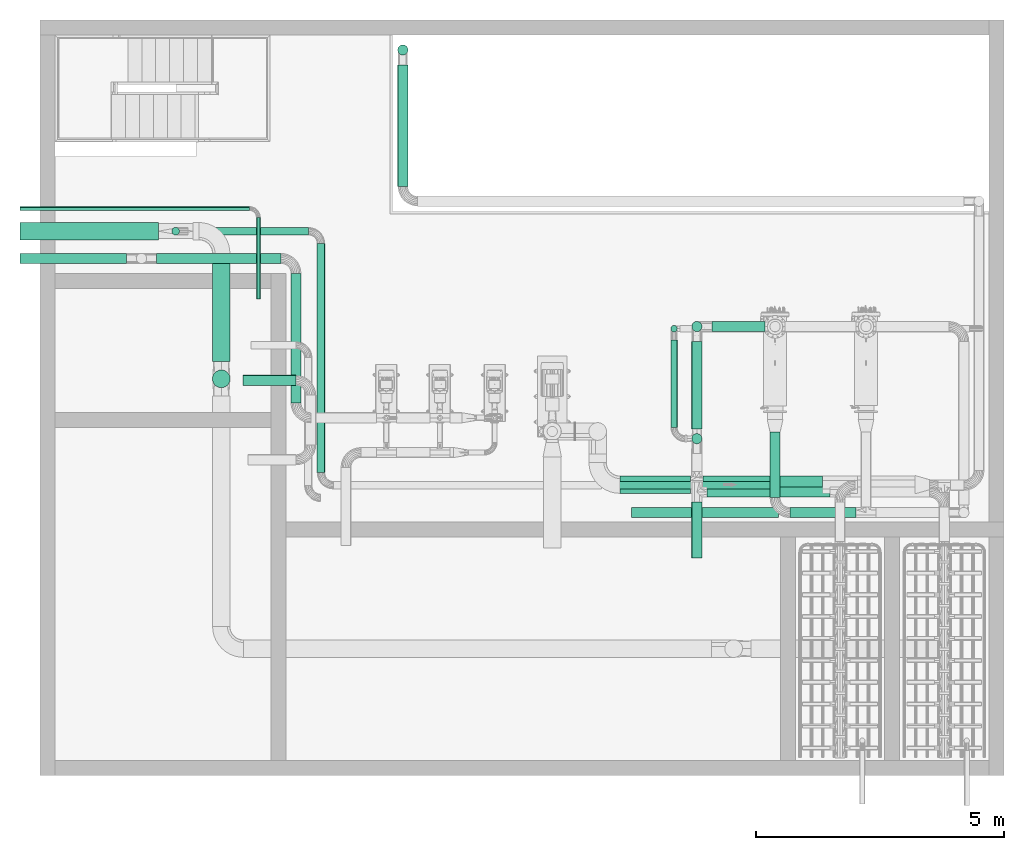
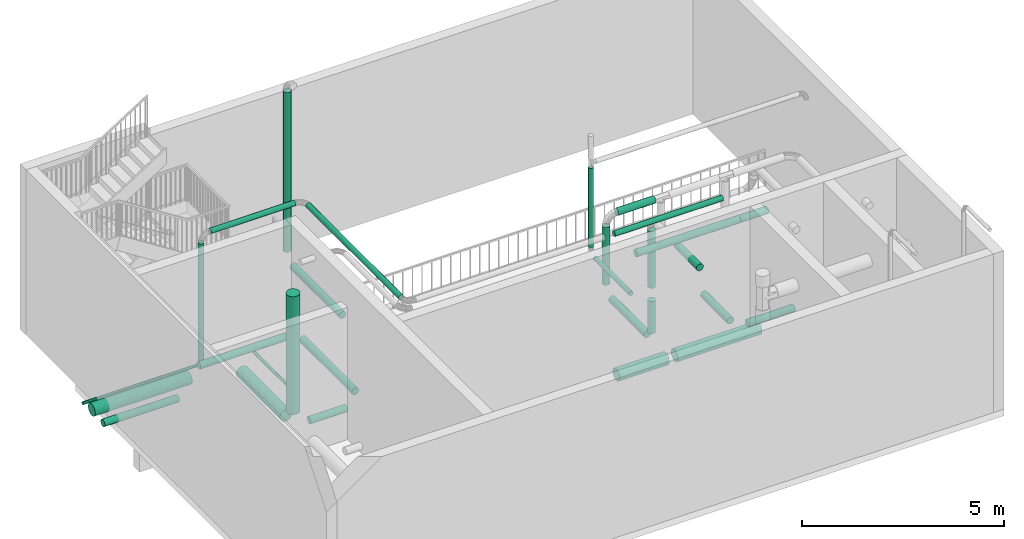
# One storey, part 6 of 28: 29 flow segments.
"""IFC2X3 building model written with IfcOpenShell, lengths in millimetres."""

from ifc_helpers import new_model, entity, si_unit, converted_unit, direction, frame, frame_2d, origin, origin_2d_with_axis, place, context, subcontext, project, spatial, circle, extrude, material, type_object, element, save


model = new_model("IFC2X3")

# Units and contexts
model_context = context("Model", 3, precision=0.01, world=origin(), true_north=direction((6.123031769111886e-17, 1.0)))
body_context = subcontext(model_context, "Body", "Model", "MODEL_VIEW")
ifc_project = project(units=[si_unit("LENGTHUNIT", "METRE", prefix="MILLI"), converted_unit("PLANEANGLEUNIT", "DEGREE", entity("IfcPlaneAngleMeasure", 0.017453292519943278), si_unit("PLANEANGLEUNIT", "RADIAN"), dimensions=[0, 0, 0, 0, 0, 0, 0]), si_unit("AREAUNIT", "SQUARE_METRE")], contexts=[model_context])

# Site, building, storey
site_placement = place(None, frame((7776.576483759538, 118.3519876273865, 0.0)))
site = spatial("IfcSite", under=ifc_project, at=site_placement, Name="Default", CompositionType="ELEMENT")
building_placement = place(site_placement, origin())
building = spatial("IfcBuilding", under=site, at=building_placement, Name="Bygning (endres i Project Information)", CompositionType="ELEMENT")
storey_placement = place(building_placement, frame((0.0, 0.0, 14000.0)))
storey = spatial("IfcBuildingStorey", under=building, at=storey_placement, Name="Plan U1 - Arbeid", CompositionType="ELEMENT", Elevation=14000.000000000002)

# Flow segments
ifc_material = material(Name="SS 2343 Rustfritt stål, prosessrør, generisk")
pipe_segment_type = type_object("IfcPipeSegmentType", Name="Pipe Types:AISI 304L Rustfritt", PredefinedType="NOTDEFINED", material=ifc_material)
flow_segment_1_placement = place(storey_placement, origin())
element("IfcFlowSegment", 1, at=flow_segment_1_placement, inside=storey, type_object=pipe_segment_type, Name="Pipe Types:AISI 304L Rustfritt", ObjectType="Pipe Types:AISI 304L Rustfritt", context=body_context, shape_type="SweptSolid", body=[
    extrude(circle(Radius=78.0, at=origin_2d_with_axis()), frame((24474.00137486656, 25237.75730578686, 4500.0), z_axis=(1.0, 0.0, 0.0), x_axis=(0.0, 1.0, 0.0)), (0.0, 0.0, 1.0), 3099.999999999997),
])
flow_segment_2_placement = place(storey_placement, origin())
element("IfcFlowSegment", 2, at=flow_segment_2_placement, inside=storey, type_object=pipe_segment_type, Name="Pipe Types:AISI 304L Rustfritt", ObjectType="Pipe Types:AISI 304L Rustfritt", context=body_context, shape_type="SweptSolid", body=[
    extrude(circle(Radius=103.0, at=frame_2d((1.7325874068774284e-11, 0.0), x_axis=(1.0, 0.0))), frame((27667.696048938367, 24985.757305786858, 903.4999999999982), z_axis=(0.0, 1.0, 0.0), x_axis=(-1.0, 0.0, 0.0)), (0.0, 0.0, 1.0), 1322.000000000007),
])
flow_segment_3_placement = place(storey_placement, origin())
element("IfcFlowSegment", 3, at=flow_segment_3_placement, inside=storey, type_object=pipe_segment_type, Name="Pipe Types:AISI 304L Rustfritt", ObjectType="Pipe Types:AISI 304L Rustfritt", context=body_context, shape_type="SweptSolid", body=[
    extrude(circle(Radius=103.0, at=frame_2d((-4.331468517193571e-12, 4.3314685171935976e-12), x_axis=(1.0, 0.0))), frame((26093.82624997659, 23770.57559754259, 3803.0), z_axis=(0.0, 1.0, 0.0), x_axis=(-1.0, 0.0, 0.0)), (0.0, 0.0, 1.0), 1127.1817082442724),
])
flow_segment_4_placement = place(storey_placement, origin())
element("IfcFlowSegment", 4, at=flow_segment_4_placement, inside=storey, type_object=pipe_segment_type, Name="Pipe Types:AISI 304L Rustfritt", ObjectType="Pipe Types:AISI 304L Rustfritt", context=body_context, shape_type="SweptSolid", body=[
    extrude(circle(Radius=103.0, at=frame_2d((-4.331468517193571e-12, 4.331468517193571e-12), x_axis=(1.0, 0.0))), frame((26093.82624997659, 26172.75730578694, 1780.0), z_axis=(0.0, 0.0, 1.0), x_axis=(-1.0, 0.0, 0.0)), (0.0, 0.0, 1.0), 1722.9999999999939),
])
flow_segment_5_placement = place(storey_placement, origin())
element("IfcFlowSegment", 5, at=flow_segment_5_placement, inside=storey, type_object=pipe_segment_type, Name="Pipe Types:AISI 304L Rustfritt", ObjectType="Pipe Types:AISI 304L Rustfritt", context=body_context, shape_type="SweptSolid", body=[
    extrude(circle(Radius=178.0, at=frame_2d((-8.662937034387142e-12, 7.741093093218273e-34), x_axis=(1.0, 0.0))), frame((12474.001345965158, 30347.757305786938, 278.0000272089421), z_axis=(1.0, 0.0, 0.0), x_axis=(0.0, 1.0, 0.0)), (0.0, 0.0, 1.0), 2782.1441648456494),
])
flow_segment_6_placement = place(storey_placement, origin())
element("IfcFlowSegment", 6, at=flow_segment_6_placement, inside=storey, type_object=pipe_segment_type, Name="Pipe Types:AISI 304L Rustfritt", ObjectType="Pipe Types:AISI 304L Rustfritt", context=body_context, shape_type="SweptSolid", body=[
    extrude(circle(Radius=103.0, at=origin_2d_with_axis()), frame((26393.826249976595, 28429.85394005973, 2552.2960799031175), z_axis=(1.0, 0.0, 0.0), x_axis=(0.0, 1.0, 0.0)), (0.0, 0.0, 1.0), 1073.869798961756),
])
flow_segment_7_placement = place(storey_placement, origin())
element("IfcFlowSegment", 7, at=flow_segment_7_placement, inside=storey, type_object=pipe_segment_type, Name="Pipe Types:AISI 304L Rustfritt", ObjectType="Pipe Types:AISI 304L Rustfritt", context=body_context, shape_type="SweptSolid", body=[
    extrude(circle(Radius=103.0, at=origin_2d_with_axis()), frame((27967.69604893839, 24685.75730578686, 903.5000000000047), z_axis=(1.0, 0.0, 0.0), x_axis=(0.0, 1.0, 0.0)), (0.0, 0.0, 1.0), 1329.5679156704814),
])
flow_segment_8_placement = place(storey_placement, origin())
element("IfcFlowSegment", 8, at=flow_segment_8_placement, inside=storey, type_object=pipe_segment_type, Name="Pipe Types:AISI 304L Rustfritt", ObjectType="Pipe Types:AISI 304L Rustfritt", context=body_context, shape_type="SweptSolid", body=[
    extrude(circle(Radius=178.0, at=origin_2d_with_axis()), frame((16524.001374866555, 27376.90344361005, 628.0), z_axis=(0.0, 0.0, 1.0), x_axis=(-1.0, 0.0, 0.0)), (0.0, 0.0, 1.0), 3571.999868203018),
])
flow_segment_9_placement = place(storey_placement, origin())
element("IfcFlowSegment", 9, at=flow_segment_9_placement, inside=storey, type_object=pipe_segment_type, Name="Pipe Types:AISI 304L Rustfritt", ObjectType="Pipe Types:AISI 304L Rustfritt", context=body_context, shape_type="SweptSolid", body=[
    extrude(circle(Radius=103.0, at=frame_2d((0.0, 2.1657342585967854e-12), x_axis=(1.0, 0.0))), frame((26093.826249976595, 26372.757305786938, 203.0), z_axis=(0.0, 1.0, 0.0), x_axis=(1.0, 0.0, 0.0)), (0.0, 0.0, 1.0), 1757.096634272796),
])
flow_segment_10_placement = place(storey_placement, origin())
element("IfcFlowSegment", 10, at=flow_segment_10_placement, inside=storey, type_object=pipe_segment_type, Name="Pipe Types:AISI 304L Rustfritt", ObjectType="Pipe Types:AISI 304L Rustfritt", context=body_context, shape_type="SweptSolid", body=[
    extrude(circle(Radius=78.0, at=origin_2d_with_axis()), frame((18530.00137486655, 25487.75730578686, 4500.0), z_axis=(0.0, 1.0, 0.0), x_axis=(1.0, 0.0, 0.0)), (0.0, 0.0, 1.0), 4610.000000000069),
])
flow_segment_11_placement = place(storey_placement, origin())
element("IfcFlowSegment", 11, at=flow_segment_11_placement, inside=storey, type_object=pipe_segment_type, Name="Pipe Types:AISI 304L Rustfritt", ObjectType="Pipe Types:AISI 304L Rustfritt", context=body_context, shape_type="SweptSolid", body=[
    extrude(circle(Radius=78.0, at=origin_2d_with_axis()), frame((15856.145518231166, 30347.75730578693, 4500.0), z_axis=(1.0, 0.0, 0.0), x_axis=(0.0, 1.0, 0.0)), (0.0, 0.0, 1.0), 2423.8558566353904),
])
flow_segment_12_placement = place(storey_placement, origin())
element("IfcFlowSegment", 12, at=flow_segment_12_placement, inside=storey, type_object=pipe_segment_type, Name="Pipe Types:AISI 304L Rustfritt", ObjectType="Pipe Types:AISI 304L Rustfritt", context=body_context, shape_type="SweptSolid", body=[
    extrude(circle(Radius=42.0, at=origin_2d_with_axis()), frame((12474.001344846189, 30805.757305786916, 192.00004345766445), z_axis=(1.0, 0.0, 0.0), x_axis=(0.0, -1.0, 0.0)), (0.0, 0.0, 1.0), 4616.292111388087),
])
flow_segment_13_placement = place(storey_placement, origin())
element("IfcFlowSegment", 13, at=flow_segment_13_placement, inside=storey, type_object=pipe_segment_type, Name="Pipe Types:AISI 304L Rustfritt", ObjectType="Pipe Types:AISI 304L Rustfritt", context=body_context, shape_type="SweptSolid", body=[
    extrude(circle(Radius=42.0, at=frame_2d((-2.1657342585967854e-12, 0.0), x_axis=(1.0, 0.0))), frame((17270.293456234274, 28988.30250068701, 192.0), z_axis=(0.0, 1.0, 0.0), x_axis=(-1.0, 0.0, 0.0)), (0.0, 0.0, 1.0), 1637.454805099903),
])
flow_segment_14_placement = place(storey_placement, origin())
element("IfcFlowSegment", 14, at=flow_segment_14_placement, inside=storey, type_object=pipe_segment_type, Name="Pipe Types:AISI 304L Rustfritt", ObjectType="Pipe Types:AISI 304L Rustfritt", context=body_context, shape_type="SweptSolid", body=[
    extrude(circle(Radius=103.0, at=frame_2d((6.44152346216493e-25, -8.118991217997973e-07), x_axis=(1.0, 0.0))), frame((15219.001374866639, 29800.75727784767, 985.0123791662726), z_axis=(1.0, -9.190543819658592e-08, 0.0), x_axis=(9.190543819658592e-08, 1.0, 0.0)), (0.0, 0.0, 1.0), 2508.000028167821),
])
flow_segment_15_placement = place(storey_placement, origin())
element("IfcFlowSegment", 15, at=flow_segment_15_placement, inside=storey, type_object=pipe_segment_type, Name="Pipe Types:AISI 304L Rustfritt", ObjectType="Pipe Types:AISI 304L Rustfritt", context=body_context, shape_type="SweptSolid", body=[
    extrude(circle(Radius=178.0, at=frame_2d((0.0, 2.1657342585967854e-12), x_axis=(1.0, 0.0))), frame((16524.001374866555, 27726.903443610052, 278.0), z_axis=(0.0, 1.0, 0.0), x_axis=(-1.0, 0.0, 0.0)), (0.0, 0.0, 1.0), 2170.853862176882),
])
flow_segment_16_placement = place(storey_placement, origin())
element("IfcFlowSegment", 16, at=flow_segment_16_placement, inside=storey, type_object=pipe_segment_type, Name="Pipe Types:AISI 304L Rustfritt", ObjectType="Pipe Types:AISI 304L Rustfritt", context=body_context, shape_type="SweptSolid", body=[
    extrude(circle(Radius=103.0, at=origin_2d_with_axis()), frame((26293.826249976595, 25097.757305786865, 3803.0), z_axis=(1.0, 0.0, 0.0), x_axis=(0.0, 1.0, 0.0)), (0.0, 0.0, 1.0), 2480.175124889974),
])
flow_segment_17_placement = place(storey_placement, origin())
element("IfcFlowSegment", 17, at=flow_segment_17_placement, inside=storey, type_object=pipe_segment_type, Name="Pipe Types:AISI 304L Rustfritt", ObjectType="Pipe Types:AISI 304L Rustfritt", context=body_context, shape_type="SweptSolid", body=[
    extrude(circle(Radius=103.0, at=frame_2d((-4.331468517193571e-12, 0.0), x_axis=(1.0, 0.0))), frame((16964.00137486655, 27347.75730578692, 203.0), z_axis=(1.0, 0.0, 0.0), x_axis=(0.0, 1.0, 0.0)), (0.0, 0.0, 1.0), 1059.9999999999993),
])
flow_segment_18_placement = place(storey_placement, origin())
element("IfcFlowSegment", 18, at=flow_segment_18_placement, inside=storey, type_object=pipe_segment_type, Name="Pipe Types:AISI 304L Rustfritt", ObjectType="Pipe Types:AISI 304L Rustfritt", context=body_context, shape_type="SweptSolid", body=[
    extrude(circle(Radius=103.0, at=frame_2d((0.0, -4.331468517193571e-12), x_axis=(1.0, 0.0))), frame((26093.826249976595, 28429.853940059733, 503.0)), (0.0, 0.0, 1.0), 1749.2960799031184),
])
flow_segment_19_placement = place(storey_placement, origin())
element("IfcFlowSegment", 19, at=flow_segment_19_placement, inside=storey, type_object=pipe_segment_type, Name="Pipe Types:AISI 304L Rustfritt", ObjectType="Pipe Types:AISI 304L Rustfritt", context=body_context, shape_type="SweptSolid", body=[
    extrude(circle(Radius=65.5, at=frame_2d((0.0, 4.331468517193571e-12), x_axis=(1.0, 0.0))), frame((25634.00137486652, 28385.823688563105, 1805.0)), (0.0, 0.0, 1.0), 2404.5000000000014),
])
flow_segment_20_placement = place(storey_placement, origin())
element("IfcFlowSegment", 20, at=flow_segment_20_placement, inside=storey, type_object=pipe_segment_type, Name="Pipe Types:AISI 304L Rustfritt", ObjectType="Pipe Types:AISI 304L Rustfritt", context=body_context, shape_type="SweptSolid", body=[
    extrude(circle(Radius=65.5, at=origin_2d_with_axis()), frame((25634.001374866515, 26397.757305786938, 1580.0), z_axis=(0.0, 1.0, 0.0), x_axis=(-1.0, 0.0, 0.0)), (0.0, 0.0, 1.0), 1763.0029877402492),
])
flow_segment_21_placement = place(storey_placement, origin())
element("IfcFlowSegment", 21, at=flow_segment_21_placement, inside=storey, type_object=pipe_segment_type, Name="Pipe Types:AISI 304L Rustfritt", ObjectType="Pipe Types:AISI 304L Rustfritt", context=body_context, shape_type="SweptSolid", body=[
    extrude(circle(Radius=103.0, at=frame_2d((-4.331468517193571e-12, 4.331468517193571e-12), x_axis=(1.0, 0.0))), frame((26093.82624997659, 26172.75730578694, 403.0), z_axis=(0.0, 0.0, 1.0), x_axis=(-1.0, 0.0, 0.0)), (0.0, 0.0, 1.0), 977.0000000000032),
])
flow_segment_22_placement = place(storey_placement, origin())
element("IfcFlowSegment", 22, at=flow_segment_22_placement, inside=storey, type_object=pipe_segment_type, Name="Pipe Types:AISI 304L Rustfritt", ObjectType="Pipe Types:AISI 304L Rustfritt", context=body_context, shape_type="SweptSolid", body=[
    extrude(circle(Radius=78.0, at=origin_2d_with_axis()), frame((15606.145518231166, 30347.75730578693, 628.0000197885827), z_axis=(0.0, 0.0, 1.0), x_axis=(-1.0, 0.0, 0.0)), (0.0, 0.0, 1.0), 3621.999980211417),
])
flow_segment_23_placement = place(storey_placement, origin())
element("IfcFlowSegment", 23, at=flow_segment_23_placement, inside=storey, type_object=pipe_segment_type, Name="Pipe Types:AISI 304L Rustfritt", ObjectType="Pipe Types:AISI 304L Rustfritt", context=body_context, shape_type="SweptSolid", body=[
    extrude(circle(Radius=103.0, at=frame_2d((0.0, 2.1657342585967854e-12), x_axis=(1.0, 0.0))), frame((18027.00137486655, 26893.11822564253, 985.012379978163), z_axis=(0.0, 1.0, 0.0), x_axis=(1.0, 0.0, 0.0)), (0.0, 0.0, 1.0), 2607.6388217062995),
])
flow_segment_24_placement = place(storey_placement, origin())
element("IfcFlowSegment", 24, at=flow_segment_24_placement, inside=storey, type_object=pipe_segment_type, Name="Pipe Types:AISI 304L Rustfritt", ObjectType="Pipe Types:AISI 304L Rustfritt", context=body_context, shape_type="SweptSolid", body=[
    extrude(circle(Radius=103.0, at=frame_2d((-4.331468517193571e-12, 2.1657342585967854e-12), x_axis=(1.0, 0.0))), frame((12474.00134596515, 29800.75730578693, 203.0), z_axis=(1.0, 0.0, 0.0), x_axis=(0.0, 1.0, 0.0)), (0.0, 0.0, 1.0), 2145.0000289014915),
])
flow_segment_25_placement = place(storey_placement, origin())
element("IfcFlowSegment", 25, at=flow_segment_25_placement, inside=storey, type_object=pipe_segment_type, Name="Pipe Types:AISI 304L Rustfritt", ObjectType="Pipe Types:AISI 304L Rustfritt", context=body_context, shape_type="SweptSolid", body=[
    extrude(circle(Radius=103.0, at=origin_2d_with_axis()), frame((24774.001374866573, 24685.75730578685, 4140.0), z_axis=(1.0, 0.0, 0.0), x_axis=(0.0, 1.0, 0.0)), (0.0, 0.0, 1.0), 2962.3999999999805),
])
flow_segment_26_placement = place(storey_placement, origin())
element("IfcFlowSegment", 26, at=flow_segment_26_placement, inside=storey, type_object=pipe_segment_type, Name="Pipe Types:AISI 304L Rustfritt", ObjectType="Pipe Types:AISI 304L Rustfritt", context=body_context, shape_type="SweptSolid", body=[
    extrude(circle(Radius=103.0, at=origin_2d_with_axis()), frame((20177.001374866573, 31250.75730578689, -103.0), z_axis=(0.0, 1.0, 0.0), x_axis=(-1.0, 0.0, 0.0)), (0.0, 0.0, 1.0), 2444.0000000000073),
])
flow_segment_27_placement = place(storey_placement, origin())
element("IfcFlowSegment", 27, at=flow_segment_27_placement, inside=storey, type_object=pipe_segment_type, Name="Pipe Types:AISI 304L Rustfritt", ObjectType="Pipe Types:AISI 304L Rustfritt", context=body_context, shape_type="SweptSolid", body=[
    extrude(circle(Radius=178.0, at=frame_2d((-4.331468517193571e-12, 0.0), x_axis=(1.0, 0.0))), frame((24547.43033291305, 25247.75730578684, 203.0), z_axis=(1.0, 0.0, 0.0), x_axis=(0.0, 1.0, 0.0)), (0.0, 0.0, 1.0), 1421.2209170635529),
])
flow_segment_28_placement = place(storey_placement, origin())
element("IfcFlowSegment", 28, at=flow_segment_28_placement, inside=storey, type_object=pipe_segment_type, Name="Pipe Types:AISI 304L Rustfritt", ObjectType="Pipe Types:AISI 304L Rustfritt", context=body_context, shape_type="SweptSolid", body=[
    extrude(circle(Radius=178.0, at=frame_2d((4.331468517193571e-12, 0.0), x_axis=(1.0, 0.0))), frame((26219.0012499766, 25247.757305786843, 203.0), z_axis=(1.0, 0.0, 0.0), x_axis=(0.0, 1.0, 0.0)), (0.0, 0.0, 1.0), 2405.00012488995),
])
flow_segment_29_placement = place(storey_placement, origin())
element("IfcFlowSegment", 29, at=flow_segment_29_placement, inside=storey, type_object=pipe_segment_type, Name="Pipe Types:AISI 304L Rustfritt", ObjectType="Pipe Types:AISI 304L Rustfritt", context=body_context, shape_type="SweptSolid", body=[
    extrude(circle(Radius=103.0, at=origin_2d_with_axis()), frame((20177.001374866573, 33994.7573057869, 197.0), z_axis=(0.0, 0.0, 1.0), x_axis=(-1.0, 0.0, 0.0)), (0.0, 0.0, 1.0), 4841.419710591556),
])

save(model, "model.ifc")
